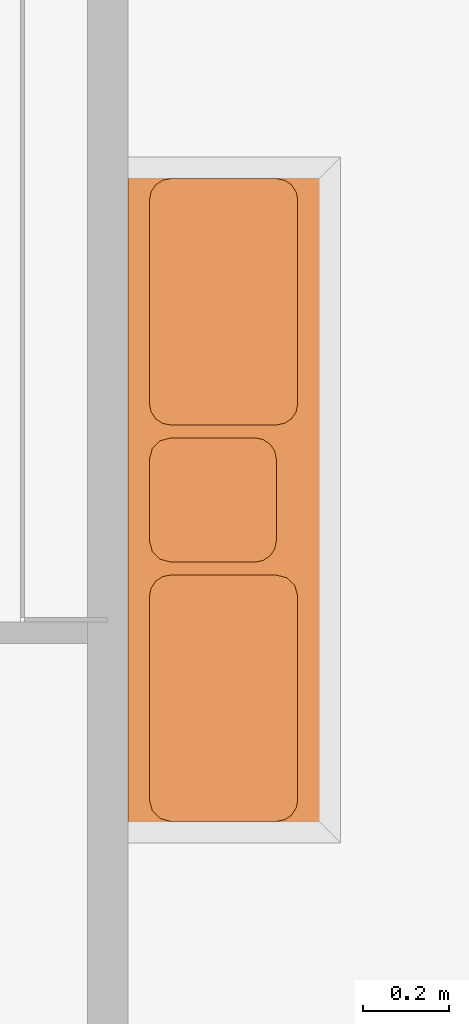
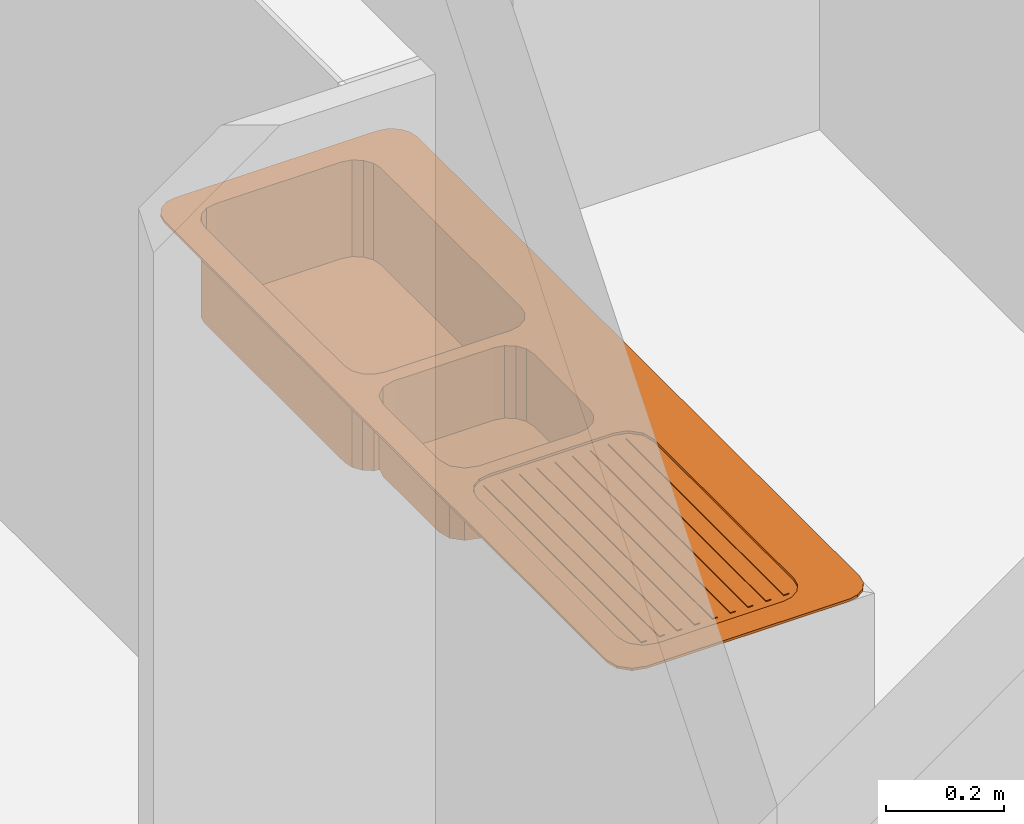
# One storey, part 17 of 17: 1 proxy.
"""IFC2X3 building model written with IfcOpenShell, lengths in millimetres."""

from ifc_helpers import new_model, entity, si_unit, converted_unit, direction, frame, origin_with_axes, place, context, project, spatial, open_shell, faceted_brep, surface_model, material, element, save


model = new_model("IFC2X3")

# Units and contexts
model_context = context("Model", 3, precision=1e-05, world=origin_with_axes(), true_north=direction((0.0, 1.0)))
ifc_project = project(units=[si_unit("LENGTHUNIT", "METRE", prefix="MILLI"), si_unit("AREAUNIT", "SQUARE_METRE"), si_unit("VOLUMEUNIT", "CUBIC_METRE"), converted_unit("PLANEANGLEUNIT", "DEGREE", entity("IfcPlaneAngleMeasure", 0.017453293), si_unit("PLANEANGLEUNIT", "RADIAN"), dimensions=[0, 0, 0, 0, 0, 0, 0]), si_unit("SOLIDANGLEUNIT", "STERADIAN"), si_unit("MASSUNIT", "GRAM"), si_unit("TIMEUNIT", "SECOND"), si_unit("THERMODYNAMICTEMPERATUREUNIT", "DEGREE_CELSIUS"), si_unit("LUMINOUSINTENSITYUNIT", "LUMEN")], contexts=[model_context])

# Site, building, storey
site_placement = place(None, origin_with_axes())
site = spatial("IfcSite", under=ifc_project, at=site_placement, Name="\x83T\x83C\x83g", CompositionType="ELEMENT")
building_placement = place(site_placement, origin_with_axes())
building = spatial("IfcBuilding", under=site, at=building_placement, Name="Daitec-Sample 201208", CompositionType="ELEMENT")
storey_placement = place(building_placement, origin_with_axes())
storey = spatial("IfcBuildingStorey", under=building, at=storey_placement, Name="1F", CompositionType="ELEMENT", Elevation=0.0)

# Proxy
ifc_material = material(Name="\x94w\x8ci")
proxy_placement = place(storey_placement, frame((23171.218, 22624.447, 0.0), z_axis=(0.0, 0.0, 1.0), x_axis=(0.0, -1.0, 0.0)))
element("IfcBuildingElementProxy", 1, at=proxy_placement, inside=storey, material=ifc_material, Name="O5", context=model_context, shape_type="SurfaceModel", body=[
    faceted_brep([(50.0, 0.0, 600.0), (1550.0, 0.0, 600.0), (1550.0, 0.0, 605.0), (50.0, 0.0, 605.0), (30.865828, 3.8060234, 600.0), (14.644661, 14.644661, 600.0), (3.8060234, 30.865828, 600.0), (0.0, 50.0, 600.0), (0.0, 446.05787, 600.0), (3.8060234, 465.19204, 600.0), (14.644661, 481.41321, 600.0), (30.865828, 492.25185, 600.0), (50.0, 496.05787, 600.0), (1550.0, 496.05787, 600.0), (1569.1342, 492.25185, 600.0), (1585.3553, 481.41321, 600.0), (1596.194, 465.19204, 600.0), (1600.0, 446.05787, 600.0), (1600.0, 50.0, 600.0), (1593.3013, 25.0, 600.0), (1575.0, 6.6987298, 600.0), (100.0, 50.0, 600.0), (575.0, 50.0, 600.0), (594.13417, 53.806023, 600.0), (610.35534, 64.644661, 600.0), (621.19398, 80.865828, 600.0), (625.0, 100.0, 600.0), (625.0, 346.05787, 600.0), (621.19398, 365.19204, 600.0), (610.35534, 381.41321, 600.0), (594.13417, 392.25185, 600.0), (575.0, 396.05787, 600.0), (100.0, 396.05787, 600.0), (80.865828, 392.25185, 600.0), (64.644661, 381.41321, 600.0), (53.806023, 365.19204, 600.0), (50.0, 346.05787, 600.0), (50.0, 100.0, 600.0), (53.806023, 80.865828, 600.0), (64.644661, 64.644661, 600.0), (80.865828, 53.806023, 600.0), (705.0, 50.0, 600.0), (895.0, 50.0, 600.0), (920.0, 56.69873, 600.0), (938.30127, 75.0, 600.0), (945.0, 100.0, 600.0), (945.0, 296.05787, 600.0), (941.19398, 315.19204, 600.0), (930.35534, 331.41321, 600.0), (914.13417, 342.25185, 600.0), (895.0, 346.05787, 600.0), (705.0, 346.05787, 600.0), (685.86583, 342.25185, 600.0), (669.64466, 331.41321, 600.0), (658.80602, 315.19204, 600.0), (655.0, 296.05787, 600.0), (655.0, 100.0, 600.0), (661.69873, 75.0, 600.0), (680.0, 56.69873, 600.0), (1025.0, 50.0, 600.0), (1500.0, 50.0, 600.0), (1525.0, 56.69873, 600.0), (1543.3013, 75.0, 600.0), (1550.0, 100.0, 600.0), (1550.0, 346.05787, 600.0), (1546.194, 365.19204, 600.0), (1535.3553, 381.41321, 600.0), (1519.1342, 392.25185, 600.0), (1500.0, 396.05787, 600.0), (1025.0, 396.05787, 600.0), (1000.0, 389.35914, 600.0), (981.69873, 371.05787, 600.0), (975.0, 346.05787, 600.0), (975.0, 100.0, 600.0), (978.80602, 80.865828, 600.0), (989.64466, 64.644661, 600.0), (1005.8658, 53.806023, 600.0), (1575.0, 6.6987298, 605.0), (1593.3013, 25.0, 605.0), (1600.0, 50.0, 605.0), (1600.0, 446.05787, 605.0), (1596.194, 465.19204, 605.0), (1585.3553, 481.41321, 605.0), (1569.1342, 492.25185, 605.0), (1550.0, 496.05787, 605.0), (50.0, 496.05787, 605.0), (30.865828, 492.25185, 605.0), (14.644661, 481.41321, 605.0), (3.8060234, 465.19204, 605.0), (0.0, 446.05787, 605.0), (0.0, 50.0, 605.0), (3.8060234, 30.865828, 605.0), (14.644661, 14.644661, 605.0), (30.865828, 3.8060234, 605.0), (100.0, 50.0, 605.0), (80.865828, 53.806023, 605.0), (64.644661, 64.644661, 605.0), (53.806023, 80.865828, 605.0), (50.0, 100.0, 605.0), (50.0, 346.05787, 605.0), (53.806023, 365.19204, 605.0), (64.644661, 381.41321, 605.0), (80.865828, 392.25185, 605.0), (100.0, 396.05787, 605.0), (575.0, 396.05787, 605.0), (594.13417, 392.25185, 605.0), (610.35534, 381.41321, 605.0), (621.19398, 365.19204, 605.0), (625.0, 346.05787, 605.0), (625.0, 100.0, 605.0), (621.19398, 80.865828, 605.0), (610.35534, 64.644661, 605.0), (594.13417, 53.806023, 605.0), (575.0, 50.0, 605.0), (705.0, 50.0, 605.0), (680.0, 56.69873, 605.0), (661.69873, 75.0, 605.0), (655.0, 100.0, 605.0), (655.0, 296.05787, 605.0), (658.80602, 315.19204, 605.0), (669.64466, 331.41321, 605.0), (685.86583, 342.25185, 605.0), (705.0, 346.05787, 605.0), (895.0, 346.05787, 605.0), (914.13417, 342.25185, 605.0), (930.35534, 331.41321, 605.0), (941.19398, 315.19204, 605.0), (945.0, 296.05787, 605.0), (945.0, 100.0, 605.0), (938.30127, 75.0, 605.0), (920.0, 56.69873, 605.0), (895.0, 50.0, 605.0), (1025.0, 50.0, 605.0), (1005.8658, 53.806023, 605.0), (989.64466, 64.644661, 605.0), (978.80602, 80.865828, 605.0), (975.0, 100.0, 605.0), (975.0, 346.05787, 605.0), (981.69873, 371.05787, 605.0), (1000.0, 389.35914, 605.0), (1025.0, 396.05787, 605.0), (1500.0, 396.05787, 605.0), (1519.1342, 392.25185, 605.0), (1535.3553, 381.41321, 605.0), (1546.194, 365.19204, 605.0), (1550.0, 346.05787, 605.0), (1550.0, 100.0, 605.0), (1543.3013, 75.0, 605.0), (1525.0, 56.69873, 605.0), (1500.0, 50.0, 605.0)], [[[0, 1, 2, 3]], [[0, 4, 5, 6, 7, 8, 9, 10, 11, 12, 13, 14, 15, 16, 17, 18, 19, 20, 1], [21, 22, 23, 24, 25, 26, 27, 28, 29, 30, 31, 32, 33, 34, 35, 36, 37, 38, 39, 40], [41, 42, 43, 44, 45, 46, 47, 48, 49, 50, 51, 52, 53, 54, 55, 56, 57, 58], [59, 60, 61, 62, 63, 64, 65, 66, 67, 68, 69, 70, 71, 72, 73, 74, 75, 76]], [[1, 20, 77, 2]], [[3, 2, 77, 78, 79, 80, 81, 82, 83, 84, 85, 86, 87, 88, 89, 90, 91, 92, 93], [94, 95, 96, 97, 98, 99, 100, 101, 102, 103, 104, 105, 106, 107, 108, 109, 110, 111, 112, 113], [114, 115, 116, 117, 118, 119, 120, 121, 122, 123, 124, 125, 126, 127, 128, 129, 130, 131], [132, 133, 134, 135, 136, 137, 138, 139, 140, 141, 142, 143, 144, 145, 146, 147, 148, 149]], [[4, 0, 3, 93]], [[5, 4, 93, 92]], [[6, 5, 92, 91]], [[7, 6, 91, 90]], [[8, 7, 90, 89]], [[9, 8, 89, 88]], [[10, 9, 88, 87]], [[11, 10, 87, 86]], [[12, 11, 86, 85]], [[13, 12, 85, 84]], [[14, 13, 84, 83]], [[15, 14, 83, 82]], [[16, 15, 82, 81]], [[17, 16, 81, 80]], [[18, 17, 80, 79]], [[19, 18, 79, 78]], [[20, 19, 78, 77]], [[22, 21, 94, 113]], [[23, 22, 113, 112]], [[24, 23, 112, 111]], [[25, 24, 111, 110]], [[26, 25, 110, 109]], [[27, 26, 109, 108]], [[28, 27, 108, 107]], [[29, 28, 107, 106]], [[30, 29, 106, 105]], [[31, 30, 105, 104]], [[32, 31, 104, 103]], [[33, 32, 103, 102]], [[34, 33, 102, 101]], [[35, 34, 101, 100]], [[36, 35, 100, 99]], [[37, 36, 99, 98]], [[38, 37, 98, 97]], [[39, 38, 97, 96]], [[40, 39, 96, 95]], [[21, 40, 95, 94]], [[42, 41, 114, 131]], [[43, 42, 131, 130]], [[44, 43, 130, 129]], [[45, 44, 129, 128]], [[46, 45, 128, 127]], [[47, 46, 127, 126]], [[48, 47, 126, 125]], [[49, 48, 125, 124]], [[50, 49, 124, 123]], [[51, 50, 123, 122]], [[52, 51, 122, 121]], [[53, 52, 121, 120]], [[54, 53, 120, 119]], [[55, 54, 119, 118]], [[56, 55, 118, 117]], [[57, 56, 117, 116]], [[58, 57, 116, 115]], [[41, 58, 115, 114]], [[60, 59, 132, 149]], [[61, 60, 149, 148]], [[62, 61, 148, 147]], [[63, 62, 147, 146]], [[64, 63, 146, 145]], [[65, 64, 145, 144]], [[66, 65, 144, 143]], [[67, 66, 143, 142]], [[68, 67, 142, 141]], [[69, 68, 141, 140]], [[70, 69, 140, 139]], [[71, 70, 139, 138]], [[72, 71, 138, 137]], [[73, 72, 137, 136]], [[74, 73, 136, 135]], [[75, 74, 135, 134]], [[76, 75, 134, 133]], [[59, 76, 133, 132]]]),
    faceted_brep([(1025.0, 50.0, 595.0), (1500.0, 50.0, 595.0), (1500.0, 50.0, 600.0), (1025.0, 50.0, 600.0), (1005.8658, 53.806023, 595.0), (989.64466, 64.644661, 595.0), (978.80602, 80.865828, 595.0), (975.0, 100.0, 595.0), (975.0, 346.05787, 595.0), (981.69873, 371.05787, 595.0), (1000.0, 389.35914, 595.0), (1025.0, 396.05787, 595.0), (1500.0, 396.05787, 595.0), (1519.1342, 392.25185, 595.0), (1535.3553, 381.41321, 595.0), (1546.194, 365.19204, 595.0), (1550.0, 346.05787, 595.0), (1550.0, 100.0, 595.0), (1543.3013, 75.0, 595.0), (1525.0, 56.69873, 595.0), (1525.0, 56.69873, 600.0), (1543.3013, 75.0, 600.0), (1550.0, 100.0, 600.0), (1550.0, 346.05787, 600.0), (1546.194, 365.19204, 600.0), (1535.3553, 381.41321, 600.0), (1519.1342, 392.25185, 600.0), (1500.0, 396.05787, 600.0), (1025.0, 396.05787, 600.0), (1000.0, 389.35914, 600.0), (981.69873, 371.05787, 600.0), (975.0, 346.05787, 600.0), (975.0, 100.0, 600.0), (978.80602, 80.865828, 600.0), (989.64466, 64.644661, 600.0), (1005.8658, 53.806023, 600.0)], [[[0, 1, 2, 3]], [[0, 4, 5, 6, 7, 8, 9, 10, 11, 12, 13, 14, 15, 16, 17, 18, 19, 1]], [[1, 19, 20, 2]], [[3, 2, 20, 21, 22, 23, 24, 25, 26, 27, 28, 29, 30, 31, 32, 33, 34, 35]], [[4, 0, 3, 35]], [[5, 4, 35, 34]], [[6, 5, 34, 33]], [[7, 6, 33, 32]], [[8, 7, 32, 31]], [[9, 8, 31, 30]], [[10, 9, 30, 29]], [[11, 10, 29, 28]], [[12, 11, 28, 27]], [[13, 12, 27, 26]], [[14, 13, 26, 25]], [[15, 14, 25, 24]], [[16, 15, 24, 23]], [[17, 16, 23, 22]], [[18, 17, 22, 21]], [[19, 18, 21, 20]]]),
    faceted_brep([(995.0, 80.0, 600.0), (1530.0, 80.0, 600.0), (1530.0, 80.0, 602.0), (995.0, 80.0, 602.0), (995.0, 90.0, 600.0), (1530.0, 90.0, 600.0), (1530.0, 90.0, 602.0), (995.0, 90.0, 602.0)], [[[0, 1, 2, 3]], [[0, 4, 5, 1]], [[1, 5, 6, 2]], [[3, 2, 6, 7]], [[4, 0, 3, 7]], [[5, 4, 7, 6]]]),
    faceted_brep([(995.0, 114.83034, 600.0), (1530.0, 114.83034, 600.0), (1530.0, 114.83034, 602.0), (995.0, 114.83034, 602.0), (995.0, 124.83034, 600.0), (1530.0, 124.83034, 600.0), (1530.0, 124.83034, 602.0), (995.0, 124.83034, 602.0)], [[[0, 1, 2, 3]], [[0, 4, 5, 1]], [[1, 5, 6, 2]], [[3, 2, 6, 7]], [[4, 0, 3, 7]], [[5, 4, 7, 6]]]),
    faceted_brep([(995.0, 149.66068, 600.0), (1530.0, 149.66068, 600.0), (1530.0, 149.66068, 602.0), (995.0, 149.66068, 602.0), (995.0, 159.66068, 600.0), (1530.0, 159.66068, 600.0), (1530.0, 159.66068, 602.0), (995.0, 159.66068, 602.0)], [[[0, 1, 2, 3]], [[0, 4, 5, 1]], [[1, 5, 6, 2]], [[3, 2, 6, 7]], [[4, 0, 3, 7]], [[5, 4, 7, 6]]]),
    faceted_brep([(995.0, 184.49101, 600.0), (1530.0, 184.49101, 600.0), (1530.0, 184.49101, 602.0), (995.0, 184.49101, 602.0), (995.0, 194.49101, 600.0), (1530.0, 194.49101, 600.0), (1530.0, 194.49101, 602.0), (995.0, 194.49101, 602.0)], [[[0, 1, 2, 3]], [[0, 4, 5, 1]], [[1, 5, 6, 2]], [[3, 2, 6, 7]], [[4, 0, 3, 7]], [[5, 4, 7, 6]]]),
    faceted_brep([(995.0, 219.32135, 600.0), (1530.0, 219.32135, 600.0), (1530.0, 219.32135, 602.0), (995.0, 219.32135, 602.0), (995.0, 229.32135, 600.0), (1530.0, 229.32135, 600.0), (1530.0, 229.32135, 602.0), (995.0, 229.32135, 602.0)], [[[0, 1, 2, 3]], [[0, 4, 5, 1]], [[1, 5, 6, 2]], [[3, 2, 6, 7]], [[4, 0, 3, 7]], [[5, 4, 7, 6]]]),
    faceted_brep([(995.0, 254.15169, 600.0), (1530.0, 254.15169, 600.0), (1530.0, 254.15169, 602.0), (995.0, 254.15169, 602.0), (995.0, 264.15169, 600.0), (1530.0, 264.15169, 600.0), (1530.0, 264.15169, 602.0), (995.0, 264.15169, 602.0)], [[[0, 1, 2, 3]], [[0, 4, 5, 1]], [[1, 5, 6, 2]], [[3, 2, 6, 7]], [[4, 0, 3, 7]], [[5, 4, 7, 6]]]),
    faceted_brep([(995.0, 288.98203, 600.0), (1530.0, 288.98203, 600.0), (1530.0, 288.98203, 602.0), (995.0, 288.98203, 602.0), (995.0, 298.98203, 600.0), (1530.0, 298.98203, 600.0), (1530.0, 298.98203, 602.0), (995.0, 298.98203, 602.0)], [[[0, 1, 2, 3]], [[0, 4, 5, 1]], [[1, 5, 6, 2]], [[3, 2, 6, 7]], [[4, 0, 3, 7]], [[5, 4, 7, 6]]]),
    faceted_brep([(995.0, 323.81237, 600.0), (1530.0, 323.81237, 600.0), (1530.0, 323.81237, 602.0), (995.0, 323.81237, 602.0), (995.0, 333.81237, 600.0), (1530.0, 333.81237, 600.0), (1530.0, 333.81237, 602.0), (995.0, 333.81237, 602.0)], [[[0, 1, 2, 3]], [[0, 4, 5, 1]], [[1, 5, 6, 2]], [[3, 2, 6, 7]], [[4, 0, 3, 7]], [[5, 4, 7, 6]]]),
    faceted_brep([(995.0, 358.6427, 600.0), (1530.0, 358.6427, 600.0), (1530.0, 358.6427, 602.0), (995.0, 358.6427, 602.0), (995.0, 368.6427, 600.0), (1530.0, 368.6427, 600.0), (1530.0, 368.6427, 602.0), (995.0, 368.6427, 602.0)], [[[0, 1, 2, 3]], [[0, 4, 5, 1]], [[1, 5, 6, 2]], [[3, 2, 6, 7]], [[4, 0, 3, 7]], [[5, 4, 7, 6]]]),
    surface_model("IfcShellBasedSurfaceModel", [(100.0, 50.0, 405.0), (575.0, 50.0, 405.0), (575.0, 50.0, 600.0), (100.0, 50.0, 600.0), (80.865828, 53.806023, 405.0), (64.644661, 64.644661, 405.0), (53.806023, 80.865828, 405.0), (50.0, 100.0, 405.0), (50.0, 346.05787, 405.0), (53.806023, 365.19204, 405.0), (64.644661, 381.41321, 405.0), (80.865828, 392.25185, 405.0), (100.0, 396.05787, 405.0), (575.0, 396.05787, 405.0), (594.13417, 392.25185, 405.0), (610.35534, 381.41321, 405.0), (621.19398, 365.19204, 405.0), (625.0, 346.05787, 405.0), (625.0, 100.0, 405.0), (621.19398, 80.865828, 405.0), (610.35534, 64.644661, 405.0), (594.13417, 53.806023, 405.0), (594.13417, 53.806023, 600.0), (80.865828, 53.806023, 600.0), (64.644661, 64.644661, 600.0), (53.806023, 80.865828, 600.0), (50.0, 100.0, 600.0), (50.0, 346.05787, 600.0), (53.806023, 365.19204, 600.0), (64.644661, 381.41321, 600.0), (80.865828, 392.25185, 600.0), (100.0, 396.05787, 600.0), (575.0, 396.05787, 600.0), (594.13417, 392.25185, 600.0), (610.35534, 381.41321, 600.0), (621.19398, 365.19204, 600.0), (625.0, 346.05787, 600.0), (625.0, 100.0, 600.0), (621.19398, 80.865828, 600.0), (610.35534, 64.644661, 600.0)], [open_shell([[[0, 1, 2, 3]], [[0, 4, 5, 6, 7, 8, 9, 10, 11, 12, 13, 14, 15, 16, 17, 18, 19, 20, 21, 1]], [[1, 21, 22, 2]], [[4, 0, 3, 23]], [[5, 4, 23, 24]], [[6, 5, 24, 25]], [[7, 6, 25, 26]], [[8, 7, 26, 27]], [[9, 8, 27, 28]], [[10, 9, 28, 29]], [[11, 10, 29, 30]], [[12, 11, 30, 31]], [[13, 12, 31, 32]], [[14, 13, 32, 33]], [[15, 14, 33, 34]], [[16, 15, 34, 35]], [[17, 16, 35, 36]], [[18, 17, 36, 37]], [[19, 18, 37, 38]], [[20, 19, 38, 39]], [[21, 20, 39, 22]]])]),
    surface_model("IfcShellBasedSurfaceModel", [(705.0, 50.0, 455.0), (895.0, 50.0, 455.0), (895.0, 50.0, 600.0), (705.0, 50.0, 600.0), (680.0, 56.69873, 455.0), (661.69873, 75.0, 455.0), (655.0, 100.0, 455.0), (655.0, 296.05787, 455.0), (658.80602, 315.19204, 455.0), (669.64466, 331.41321, 455.0), (685.86583, 342.25185, 455.0), (705.0, 346.05787, 455.0), (895.0, 346.05787, 455.0), (914.13417, 342.25185, 455.0), (930.35534, 331.41321, 455.0), (941.19398, 315.19204, 455.0), (945.0, 296.05787, 455.0), (945.0, 100.0, 455.0), (938.30127, 75.0, 455.0), (920.0, 56.69873, 455.0), (920.0, 56.69873, 600.0), (680.0, 56.69873, 600.0), (661.69873, 75.0, 600.0), (655.0, 100.0, 600.0), (655.0, 296.05787, 600.0), (658.80602, 315.19204, 600.0), (669.64466, 331.41321, 600.0), (685.86583, 342.25185, 600.0), (705.0, 346.05787, 600.0), (895.0, 346.05787, 600.0), (914.13417, 342.25185, 600.0), (930.35534, 331.41321, 600.0), (941.19398, 315.19204, 600.0), (945.0, 296.05787, 600.0), (945.0, 100.0, 600.0), (938.30127, 75.0, 600.0)], [open_shell([[[0, 1, 2, 3]], [[0, 4, 5, 6, 7, 8, 9, 10, 11, 12, 13, 14, 15, 16, 17, 18, 19, 1]], [[1, 19, 20, 2]], [[4, 0, 3, 21]], [[5, 4, 21, 22]], [[6, 5, 22, 23]], [[7, 6, 23, 24]], [[8, 7, 24, 25]], [[9, 8, 25, 26]], [[10, 9, 26, 27]], [[11, 10, 27, 28]], [[12, 11, 28, 29]], [[13, 12, 29, 30]], [[14, 13, 30, 31]], [[15, 14, 31, 32]], [[16, 15, 32, 33]], [[17, 16, 33, 34]], [[18, 17, 34, 35]], [[19, 18, 35, 20]]])]),
])

save(model, "model.ifc")
